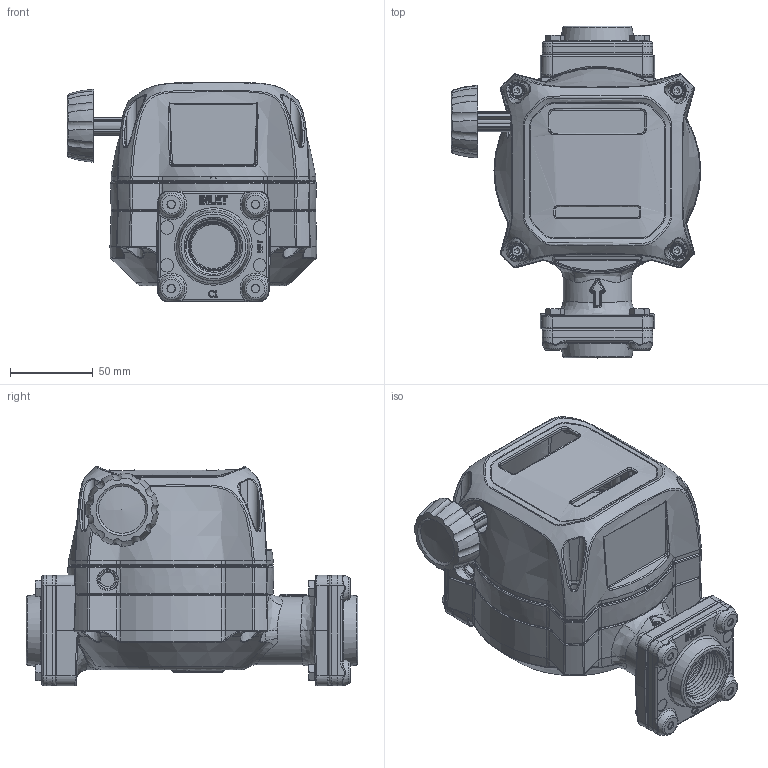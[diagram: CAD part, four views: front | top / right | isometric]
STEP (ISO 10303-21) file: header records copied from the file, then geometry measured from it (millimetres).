
FILE_DESCRIPTION(/* description */ (''),/* implementation_level */ '2;1');
FILE_NAME(/* name */ 'C:\Vault Projects\GPI Eng\New Projects\DHarris\Website model updates\STEP\M30-G8N.stp',/* time_stamp */ '2022-07-20T15:56:04-05:00',/* author */ ('gdanhar'),/* organization */ (''),/* preprocessor_version */ 'ST-DEVELOPER v18.1',/* originating_system */ 'Autodesk Inventor 2022',/* authorisation */ '');
FILE_SCHEMA (('AUTOMOTIVE_DESIGN { 1 0 10303 214 3 1 1 }'));
Products named in the file (1): M30-G8N
Bounding box: 150.49 x 200.03 x 132.35 mm (x, y, z)
Volume: 1084230.3 mm3; surface area: 204213.5 mm2
Topology: 3 solids, 28 shells, 3314 faces, 7791 edges, 4578 vertices
Faces by surface type: bspline 1017, plane 785, cylinder 724, torus 371, cone 239, sphere 178
Full cylindrical faces by diameter (mm): 4 x4, 4.928 x6, 5.838 x1, 6 x12, 6.096 x14, 6.858 x4, 7 x4, 7.087 x1, 7.137 x1, 7.874 x4, 8.001 x4, 8.666 x2, 8.88 x8, 10 x4, 12 x1, 12.7 x1
Entity records: 234946 total; most frequent: CARTESIAN_POINT 162380, ORIENTED_EDGE 15458, DIRECTION 12686, EDGE_CURVE 7729, AXIS2_PLACEMENT_3D 5209, VERTEX_POINT 4569, EDGE_LOOP 3514, FACE_OUTER_BOUND 3314
